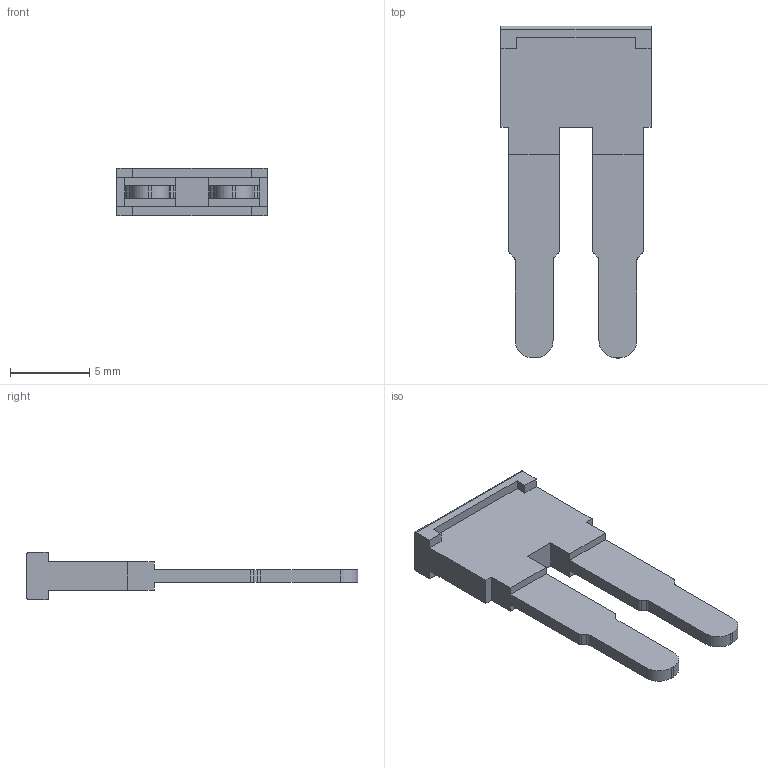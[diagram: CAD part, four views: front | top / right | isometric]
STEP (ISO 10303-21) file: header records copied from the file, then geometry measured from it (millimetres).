
FILE_DESCRIPTION(('Creo Elements/Direct Modeling STEP Export'),'2;1');
FILE_NAME('EFB0202R.stp','2019-07-26T14:06:05',(''),(''),'Creo Elements/Direct Modeling STEP processor for AP214 (Solid Model)','Creo Elements/Direct Modeling 20.1 10-Mar-2018 (C) Parametric Technology GmbH','');
FILE_SCHEMA(('AUTOMOTIVE_DESIGN { 1 0 10303 214 1 1 1 1 }'));
Length unit declared in the file: millimetre
Products named in the file (2): EFB0202R
Assembly tree (1 placements, depth 2):
  EFB0202R
    EFB0202R
Bounding box: 9.5 x 20.98 x 3 mm (x, y, z)
Volume: 195.3 mm3; surface area: 419.9 mm2
Topology: 1 solids, 1 shells, 56 faces, 162 edges, 108 vertices
Faces by surface type: plane 42, cylinder 14
Entity records: 2093 total; most frequent: ORIENTED_EDGE 324, CARTESIAN_POINT 322, DIRECTION 298, EDGE_CURVE 162, VECTOR 130, LINE 130, VERTEX_POINT 108, AXIS2_PLACEMENT_3D 84
